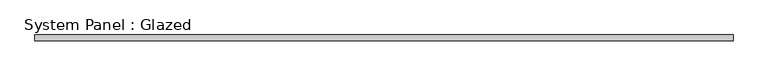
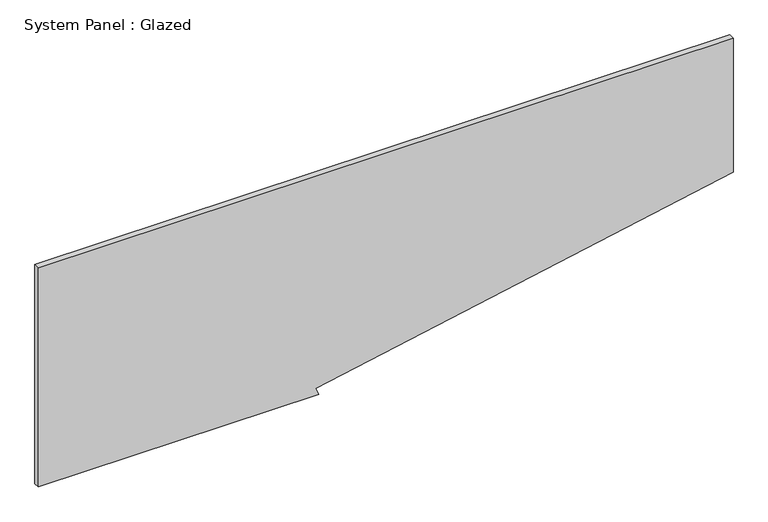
"""IFC4 building model written with IfcOpenShell, lengths in millimetres: plate geometry, System Panel : Glazed."""

import ifcopenshell
import ifcopenshell.guid

model = None  # the IFC model being written
_history = None  # IfcOwnerHistory: only IFC2X3 demands one
_inside = {}  # id of a spatial element -> (the spatial element, [elements in it])
_under = {}  # id of a project, library or spatial element -> (it, [spatial elements below it])
_declared = {}  # id of a project -> (the project, [libraries it declares])
_typed = {}  # id of a type object -> (the type object, [elements of that type])
_made_of = {}  # id of a material, layer set ... -> (it, [elements and type objects made of it])


def new_model(schema):
    """Start an empty IFC model of exactly this schema.

    Asked for "IFC4X3", IfcOpenShell would pick the latest addendum, in which some entities
    have other attributes; the version numbers below select the first issue.
    IFC2X3 requires an IfcOwnerHistory on every rooted entity: one is made here for all.
    """
    global model, _history
    if schema == "IFC4X3":
        model = ifcopenshell.file(schema_version=(4, 3, 0, 0))
    else:
        model = ifcopenshell.file(schema=schema)
    _inside.clear()
    _under.clear()
    _declared.clear()
    _typed.clear()
    _made_of.clear()
    _history = None
    if model.schema == "IFC2X3":
        org = make("IfcOrganization", Name="unknown")
        user = make(
            "IfcPersonAndOrganization",
            ThePerson=make("IfcPerson", FamilyName="unknown"),
            TheOrganization=org,
        )
        app = make(
            "IfcApplication",
            ApplicationDeveloper=org,
            Version="unknown",
            ApplicationFullName="unknown",
            ApplicationIdentifier="unknown",
        )
        _history = make(
            "IfcOwnerHistory",
            OwningUser=user,
            OwningApplication=app,
            ChangeAction="ADDED",
            CreationDate=0,
        )
    return model


def make(cls, **values):
    """One entity of the class cls with the attributes given. An attribute that is None is left unset."""
    return model.create_entity(
        cls, **{name: value for name, value in values.items() if value is not None}
    )


def rooted(cls, **values):
    """An entity with a GlobalId (a new one), such as an element, a storey or a relation."""
    return make(cls, GlobalId=ifcopenshell.guid.new(), OwnerHistory=_history, **values)


def si_unit(unit_type, name, prefix=None):
    """IfcSIUnit, for example si_unit("LENGTHUNIT", "METRE", prefix="MILLI")."""
    return make("IfcSIUnit", UnitType=unit_type, Prefix=prefix, Name=name)


def assignment(units):
    """IfcUnitAssignment: the units of a project."""
    return None if units is None else make("IfcUnitAssignment", Units=units)


def point(xyz):
    """IfcCartesianPoint."""
    return None if xyz is None else make("IfcCartesianPoint", Coordinates=xyz)


def direction(xyz):
    """IfcDirection."""
    return None if xyz is None else make("IfcDirection", DirectionRatios=xyz)


def frame(location, z_axis=None, x_axis=None):
    """IfcAxis2Placement3D, a coordinate frame: its origin and axes. An axis left out is left unset."""
    return make(
        "IfcAxis2Placement3D",
        Location=point(location),
        Axis=direction(z_axis),
        RefDirection=direction(x_axis),
    )


def origin():
    """The frame at (0, 0, 0) with its axes left unset."""
    return frame((0.0, 0.0, 0.0))


def place(relative_to, where):
    """IfcLocalPlacement: puts the frame where relative to a parent placement (None: the world)."""
    return make(
        "IfcLocalPlacement", PlacementRelTo=relative_to, RelativePlacement=where
    )


def context(
    kind, dimensions, precision=None, world=None, true_north=None, identifier=None
):
    """IfcGeometricRepresentationContext, for example the 3D "Model" context."""
    return make(
        "IfcGeometricRepresentationContext",
        ContextIdentifier=identifier,
        ContextType=kind,
        CoordinateSpaceDimension=dimensions,
        Precision=precision,
        WorldCoordinateSystem=world,
        TrueNorth=true_north,
    )


def project(units=None, contexts=None):
    """IfcProject with its units and contexts."""
    return rooted(
        "IfcProject",
        Name="project",
        RepresentationContexts=contexts,
        UnitsInContext=assignment(units),
    )


def spatial(cls, under=None, at=None, **own):
    """A site, building, storey or space (cls), placed at a placement, below another one or the project."""
    s = rooted(cls, ObjectPlacement=at, **own)
    if under is not None:
        _under.setdefault(under.id(), (under, []))[1].append(s)
    return s


def polyline(points):
    """IfcPolyline through the points."""
    return make("IfcPolyline", Points=[point(p) for p in points])


def outline(outer, holes=None, kind="AREA"):
    """IfcArbitraryClosedProfileDef: a profile drawn as a closed curve; with holes, ...WithVoids."""
    if holes is None:
        return make("IfcArbitraryClosedProfileDef", ProfileType=kind, OuterCurve=outer)
    return make(
        "IfcArbitraryProfileDefWithVoids",
        ProfileType=kind,
        OuterCurve=outer,
        InnerCurves=holes,
    )


def extrude(swept, where, along, depth):
    """IfcExtrudedAreaSolid: the profile swept, set in the frame where, extruded along a direction by depth."""
    return make(
        "IfcExtrudedAreaSolid",
        SweptArea=swept,
        Position=where,
        ExtrudedDirection=direction(along),
        Depth=depth,
    )


def shape(context_of_items, identifier, shape_type, items):
    """IfcShapeRepresentation: the items that make up one representation, for example the "Body"."""
    return make(
        "IfcShapeRepresentation",
        ContextOfItems=context_of_items,
        RepresentationIdentifier=identifier,
        RepresentationType=shape_type,
        Items=items,
    )


def source(mapping_origin, context_of_items, identifier, shape_type, items):
    """IfcRepresentationMap: a shape defined once, which mapped items show again and again."""
    return make(
        "IfcRepresentationMap",
        MappingOrigin=mapping_origin,
        MappedRepresentation=shape(context_of_items, identifier, shape_type, items),
    )


def transform(
    local_origin,
    x_axis=None,
    y_axis=None,
    z_axis=None,
    scale=None,
    scale2=None,
    scale3=None,
    uniform=True,
):
    """IfcCartesianTransformationOperator3D, or its non-uniform kind. x_axis, y_axis, z_axis: its Axis1, 2, 3."""
    if uniform:
        return make(
            "IfcCartesianTransformationOperator3D",
            Axis1=direction(x_axis),
            Axis2=direction(y_axis),
            LocalOrigin=point(local_origin),
            Scale=scale,
            Axis3=direction(z_axis),
        )
    return make(
        "IfcCartesianTransformationOperator3DnonUniform",
        Axis1=direction(x_axis),
        Axis2=direction(y_axis),
        LocalOrigin=point(local_origin),
        Scale=scale,
        Axis3=direction(z_axis),
        Scale2=scale2,
        Scale3=scale3,
    )


def mapped(mapping_source, mapping_target):
    """IfcMappedItem: shows the shape of a source again, moved by a transform."""
    return make(
        "IfcMappedItem", MappingSource=mapping_source, MappingTarget=mapping_target
    )


def made_of(thing, what):
    """Note that an element or type object is made of a material, layer set ...; save() writes the relation."""
    if what is not None:
        _made_of.setdefault(what.id(), (what, []))[1].append(thing)
    return thing


def element(
    cls,
    number,
    at=None,
    inside=None,
    cuts=None,
    type_object=None,
    material=None,
    context=None,
    identifier="Body",
    shape_type=None,
    held_by="IfcProductDefinitionShape",
    body=None,
    shapes=None,
    **own,
):
    """One element of the class cls, such as IfcWall. Its Tag is "e" and its number.

    at: its placement. inside: the storey or other place that contains it. cuts: it is an
    opening in that element (IfcRelVoidsElement). A single representation is given by context,
    identifier, shape_type and body (its items); several are given by shapes. held_by: the class
    of the entity that holds the representations. save() writes the other relations.
    """
    e = rooted(cls, Tag="e%d" % number, ObjectPlacement=at, **own)
    if body is not None:
        shapes = [shape(context, identifier, shape_type, body)]
    if shapes is not None:
        e.Representation = make(held_by, Representations=shapes)
    if inside is not None:
        _inside.setdefault(inside.id(), (inside, []))[1].append(e)
    if cuts is not None:
        rooted(
            "IfcRelVoidsElement", RelatingBuildingElement=cuts, RelatedOpeningElement=e
        )
    if type_object is not None:
        _typed.setdefault(type_object.id(), (type_object, []))[1].append(e)
    return made_of(e, material)


def aggregate(whole, parts):
    """IfcRelAggregates: a whole, such as a stair, and the parts it consists of."""
    return rooted("IfcRelAggregates", RelatingObject=whole, RelatedObjects=parts)


def save(model, path):
    """Write the relations noted so far, then the file.

    IfcRelAggregates (storeys below a building ...), IfcRelContainedInSpatialStructure (elements
    in a storey), IfcRelDefinesByType, IfcRelAssociatesMaterial and IfcRelDeclares: one each for
    every whole, place, type object, material and project.
    """
    for whole, parts in _under.values():
        aggregate(whole, parts)
    for where, things in _inside.values():
        rooted(
            "IfcRelContainedInSpatialStructure",
            RelatedElements=things,
            RelatingStructure=where,
        )
    for kind, things in _typed.values():
        rooted("IfcRelDefinesByType", RelatedObjects=things, RelatingType=kind)
    for what, things in _made_of.values():
        rooted("IfcRelAssociatesMaterial", RelatedObjects=things, RelatingMaterial=what)
    for by, libraries in _declared.values():
        rooted("IfcRelDeclares", RelatingContext=by, RelatedDefinitions=libraries)
    model.write(path)


def system_panel_glazed_a85f667b(model_context):
    return source(origin(), model_context, "Body", "SweptSolid", [
        extrude(outline(polyline([(0.0, -1504.95), (0.0, -291.0370946), (30.5350082, -303.399447), (389.456901, 1504.95), (1003.3, 1504.95), (1003.3, -1504.95), (0.0, -1504.95)])), frame((0.0, 19.05, 0.0), z_axis=(0.0, 1.0, 0.0), x_axis=(0.0, 0.0, 1.0)), (0.0, 0.0, 1.0), 25.4),
    ])


if __name__ == "__main__":
    model = new_model("IFC4")
    model_context = context("Model", 3, world=origin())
    ifc_project = project(units=[si_unit("LENGTHUNIT", "METRE", prefix="MILLI")], contexts=[model_context])
    site = spatial("IfcSite", under=ifc_project)
    building = spatial("IfcBuilding", under=site)
    placement = place(None, origin())
    system_panel_glazed_shape = system_panel_glazed_a85f667b(model_context)
    element("IfcPlate", 1, ObjectType="System Panel : Glazed", at=placement, inside=building, context=model_context, shape_type="MappedRepresentation", body=[
        mapped(system_panel_glazed_shape, transform((0.0, 0.0, 0.0), x_axis=(1.0, 0.0, 0.0), y_axis=(0.0, 1.0, 0.0), z_axis=(0.0, 0.0, 1.0))),
    ])
    save(model, "model.ifc")
